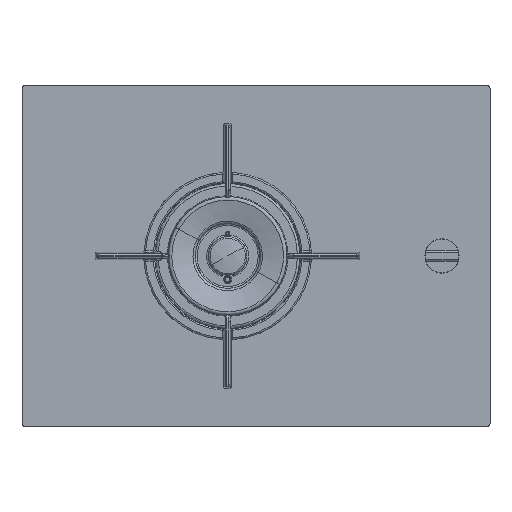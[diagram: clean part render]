
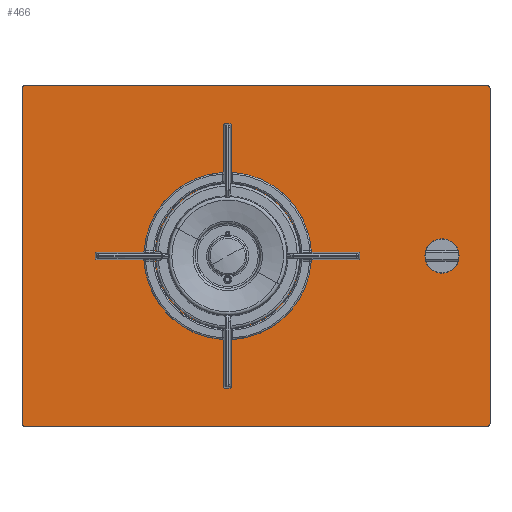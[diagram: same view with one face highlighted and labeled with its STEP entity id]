
A CAD part, top view. The second image highlights one B-rep face of the part: STEP entity #466.
In plain terms, the highlighted planar face has unit normal (0, 0, 1).
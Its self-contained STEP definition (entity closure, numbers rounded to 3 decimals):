
#206=AXIS2_PLACEMENT_3D('Circle Axis2P3D',#204,#205,$) ;
#277=AXIS2_PLACEMENT_3D('Circle Axis2P3D',#275,#276,$) ;
#339=AXIS2_PLACEMENT_3D('Circle Axis2P3D',#337,#338,$) ;
#449=AXIS2_PLACEMENT_3D('Plane Axis2P3D',#446,#447,#448) ;
#453=AXIS2_PLACEMENT_3D('Circle Axis2P3D',#451,#452,$) ;
#204=CARTESIAN_POINT('Axis2P3D Location',(-2.5,-186.5,4.)) ;
#208=CARTESIAN_POINT('Vertex',(0.,-186.5,4.)) ;
#210=CARTESIAN_POINT('Vertex',(-2.5,-189.,4.)) ;
#251=CARTESIAN_POINT('Line Origine',(-260.,-189.,4.)) ;
#255=CARTESIAN_POINT('Vertex',(-517.5,-189.,4.)) ;
#275=CARTESIAN_POINT('Axis2P3D Location',(-517.5,-186.5,4.)) ;
#279=CARTESIAN_POINT('Vertex',(-520.,-186.5,4.)) ;
#312=CARTESIAN_POINT('Vertex',(0.,186.5,4.)) ;
#315=CARTESIAN_POINT('Line Origine',(0.,0.,4.)) ;
#337=CARTESIAN_POINT('Axis2P3D Location',(-2.5,186.5,4.)) ;
#341=CARTESIAN_POINT('Vertex',(-2.5,189.,4.)) ;
#374=CARTESIAN_POINT('Vertex',(-520.,186.5,4.)) ;
#382=CARTESIAN_POINT('Line Origine',(-520.,0.,4.)) ;
#399=CARTESIAN_POINT('Line Origine',(-260.,189.,4.)) ;
#403=CARTESIAN_POINT('Vertex',(-517.5,189.,4.)) ;
#446=CARTESIAN_POINT('Axis2P3D Location',(-260.,0.,4.)) ;
#451=CARTESIAN_POINT('Axis2P3D Location',(-517.5,186.5,4.)) ;
#205=DIRECTION('Axis2P3D Direction',(0.,0.,1.)) ;
#252=DIRECTION('Vector Direction',(1.,0.,0.)) ;
#276=DIRECTION('Axis2P3D Direction',(0.,0.,1.)) ;
#316=DIRECTION('Vector Direction',(0.,-1.,0.)) ;
#338=DIRECTION('Axis2P3D Direction',(0.,-0.,1.)) ;
#383=DIRECTION('Vector Direction',(0.,1.,0.)) ;
#400=DIRECTION('Vector Direction',(-1.,0.,0.)) ;
#447=DIRECTION('Axis2P3D Direction',(0.,-0.,1.)) ;
#448=DIRECTION('Axis2P3D XDirection',(0.,1.,0.)) ;
#452=DIRECTION('Axis2P3D Direction',(0.,-0.,1.)) ;
#253=VECTOR('Line Direction',#252,1.) ;
#317=VECTOR('Line Direction',#316,1.) ;
#384=VECTOR('Line Direction',#383,1.) ;
#401=VECTOR('Line Direction',#400,1.) ;
#457=ORIENTED_EDGE('',*,*,#386,.T.) ;
#458=ORIENTED_EDGE('',*,*,#281,.F.) ;
#459=ORIENTED_EDGE('',*,*,#257,.T.) ;
#460=ORIENTED_EDGE('',*,*,#212,.F.) ;
#461=ORIENTED_EDGE('',*,*,#319,.T.) ;
#462=ORIENTED_EDGE('',*,*,#343,.F.) ;
#463=ORIENTED_EDGE('',*,*,#405,.T.) ;
#464=ORIENTED_EDGE('',*,*,#455,.F.) ;
#466=ADVANCED_FACE('Obenplatte',(#465),#450,.T.) ;
#207=CIRCLE('generated circle',#206,2.5) ;
#278=CIRCLE('generated circle',#277,2.5) ;
#340=CIRCLE('generated circle',#339,2.5) ;
#454=CIRCLE('generated circle',#453,2.5) ;
#212=EDGE_CURVE('',#209,#211,#207,.F.) ;
#257=EDGE_CURVE('',#256,#211,#254,.T.) ;
#281=EDGE_CURVE('',#256,#280,#278,.F.) ;
#319=EDGE_CURVE('',#209,#313,#318,.F.) ;
#343=EDGE_CURVE('',#342,#313,#340,.F.) ;
#386=EDGE_CURVE('',#375,#280,#385,.F.) ;
#405=EDGE_CURVE('',#342,#404,#402,.T.) ;
#455=EDGE_CURVE('',#375,#404,#454,.F.) ;
#456=EDGE_LOOP('',(#457,#458,#459,#460,#461,#462,#463,#464)) ;
#465=FACE_OUTER_BOUND('',#456,.T.) ;
#254=LINE('Line',#251,#253) ;
#318=LINE('Line',#315,#317) ;
#385=LINE('Line',#382,#384) ;
#402=LINE('Line',#399,#401) ;
#450=PLANE('',#449) ;
#209=VERTEX_POINT('',#208) ;
#211=VERTEX_POINT('',#210) ;
#256=VERTEX_POINT('',#255) ;
#280=VERTEX_POINT('',#279) ;
#313=VERTEX_POINT('',#312) ;
#342=VERTEX_POINT('',#341) ;
#375=VERTEX_POINT('',#374) ;
#404=VERTEX_POINT('',#403) ;
